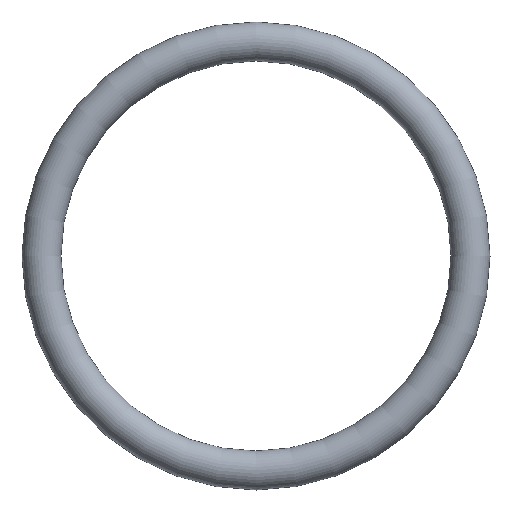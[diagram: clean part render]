
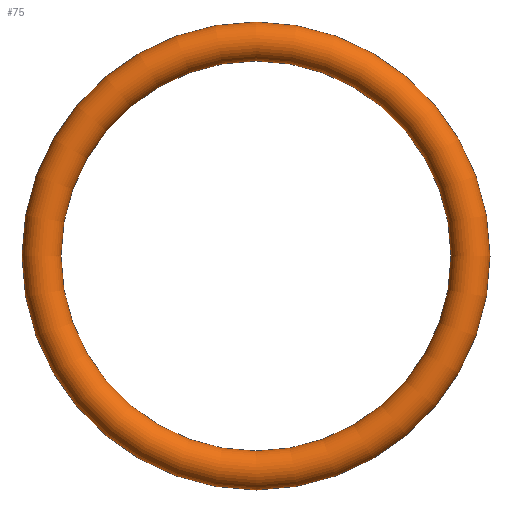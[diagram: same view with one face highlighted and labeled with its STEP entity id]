
A CAD part, front view. The second image highlights one B-rep face of the part: STEP entity #75.
In plain terms, the highlighted toroidal (fillet/blend) face has major radius 13.75 mm and minor radius 1.25 mm.
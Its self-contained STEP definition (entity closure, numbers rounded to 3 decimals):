
#75 = ADVANCED_FACE( '', ( #77 ), #78, .T. );
#77 = FACE_BOUND( '', #79, .T. );
#78 = TOROIDAL_SURFACE( '', #80, 13.75, 1.25 );
#79 = VERTEX_LOOP( '', #81 );
#80 = AXIS2_PLACEMENT_3D( '', #82, #83, #84 );
#81 = VERTEX_POINT( '', #85 );
#82 = CARTESIAN_POINT( '', ( 0., 0., 0. ) );
#83 = DIRECTION( '', ( 0., -1., 0. ) );
#84 = DIRECTION( '', ( 0., 0., -1. ) );
#85 = CARTESIAN_POINT( '', ( 0., 0., -15. ) );
